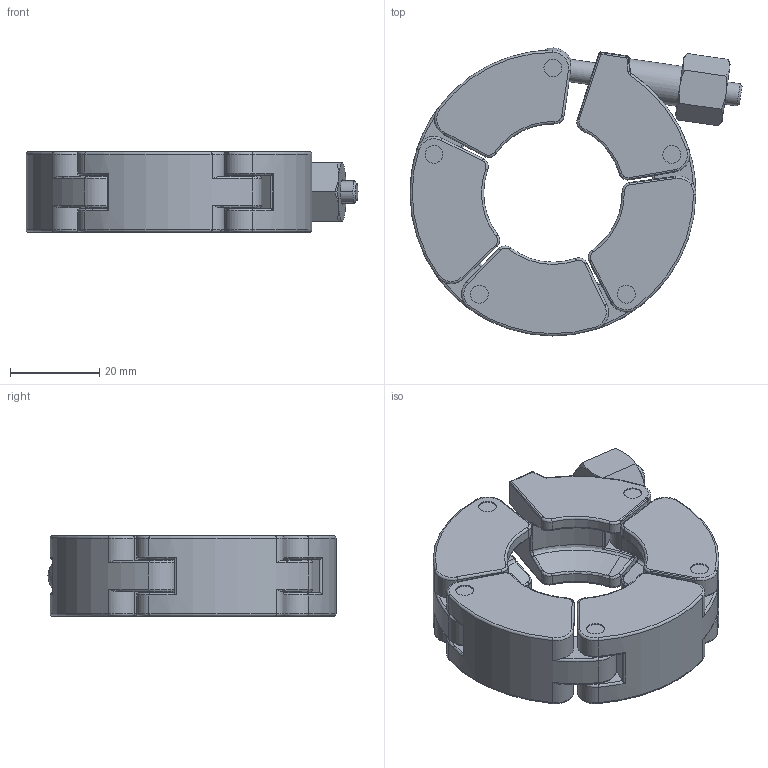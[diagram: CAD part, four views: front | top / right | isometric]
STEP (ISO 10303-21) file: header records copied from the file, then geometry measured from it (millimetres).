
FILE_DESCRIPTION((''),'2;1');
FILE_NAME('W:\211-022.stp','2003-10-02T16:14:16',('KAA'),(''),'Autodesk Inventor (R) 6.0','Autodesk Inventor (R) 6.0','');
FILE_SCHEMA(('CONFIG_CONTROL_DESIGN'));
Length unit declared in the file: millimetre
Products named in the file (1): 211-022
Bounding box: 74.35 x 64.5 x 18 mm (x, y, z)
Volume: 35437 mm3; surface area: 16234.4 mm2
Topology: 1 solids, 1 shells, 528 faces, 1320 edges, 805 vertices
Faces by surface type: cylinder 180, torus 132, bspline 88, plane 80, cone 38, sphere 10
Full cylindrical faces by diameter (mm): 4 x9
Entity records: 43698 total; most frequent: CARTESIAN_POINT 31583, ORIENTED_EDGE 2584, DIRECTION 2517, EDGE_CURVE 1292, AXIS2_PLACEMENT_3D 1108, VERTEX_POINT 796, CIRCLE 663, EDGE_LOOP 570
